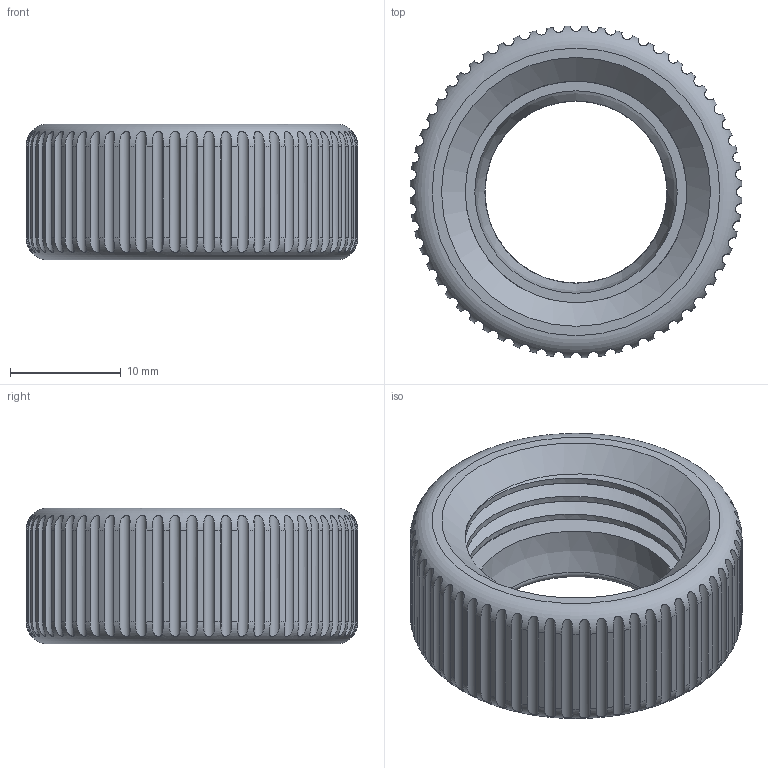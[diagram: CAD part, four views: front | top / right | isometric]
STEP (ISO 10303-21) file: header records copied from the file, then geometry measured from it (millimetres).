
FILE_DESCRIPTION(/* description */ (''),/* implementation_level */ '2;1');
FILE_NAME(/* name */ 'C:/Users/arthu/Desktop/3D/Porte portap/step_files/ball joint screw.step',/* time_stamp */ '2021-01-11T17:19:37+01:00',/* author */ (''),/* organization */ (''),/* preprocessor_version */ 'ST-DEVELOPER v18.1',/* originating_system */ 'Autodesk Translation Framework v9.7.1.1290',/* authorisation */ '');
FILE_SCHEMA (('AUTOMOTIVE_DESIGN { 1 0 10303 214 3 1 1 }'));
Length unit declared in the file: millimetre
Products named in the file (1): ball joint screw
Bounding box: 29.98 x 29.98 x 12.28 mm (x, y, z)
Volume: 4453.5 mm3; surface area: 3229.8 mm2
Topology: 1 solids, 1 shells, 139 faces, 405 edges, 269 vertices
Faces by surface type: cylinder 128, plane 4, torus 3, bspline 2, sphere 1, cone 1
Full cylindrical faces by diameter (mm): 20.022 x2, 22.25 x2
Entity records: 8379 total; most frequent: CARTESIAN_POINT 4805, ORIENTED_EDGE 810, DIRECTION 677, EDGE_CURVE 405, AXIS2_PLACEMENT_3D 275, VERTEX_POINT 269, EDGE_LOOP 142, B_SPLINE_CURVE_WITH_KNOTS 141
